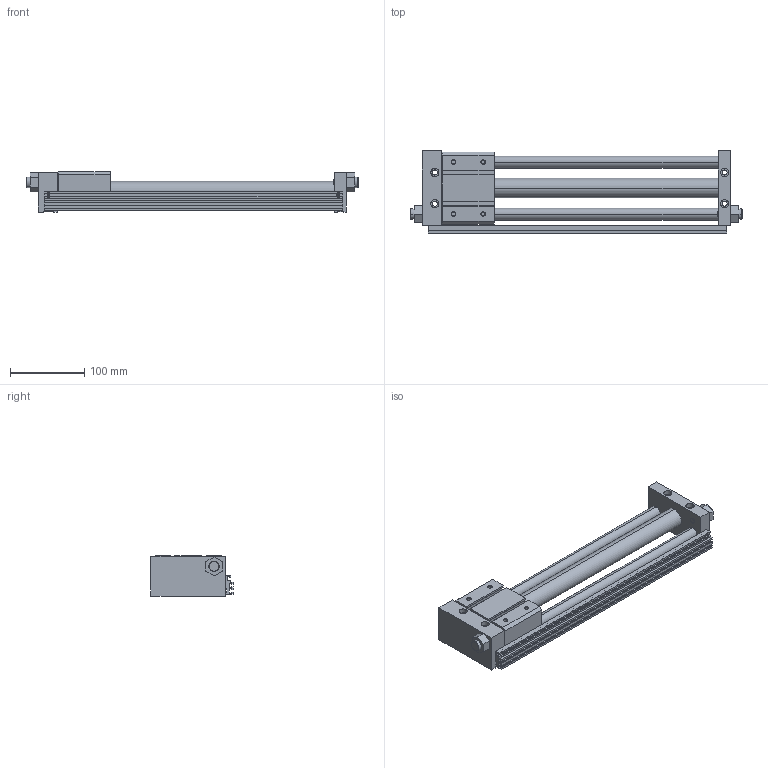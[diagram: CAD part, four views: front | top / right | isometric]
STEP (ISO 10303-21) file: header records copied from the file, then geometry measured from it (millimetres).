
FILE_DESCRIPTION((''),'2;1');
FILE_NAME('C:\Documents and Settings\Administrator\桌面\GYS\GYS25\GYSR25X300.stp','2012-03-06T11:00:29',('Administrator'),(''),'Autodesk Inventor 8','Autodesk Inventor 8','');
FILE_SCHEMA(('AUTOMOTIVE_DESIGN { 1 0 10303 214 1 1 1 1 }'));
Length unit declared in the file: millimetre
Products named in the file (3): GYSR25X300; GYS25X300; GYS25160X300
Assembly tree (2 placements, depth 2):
  GYSR25X300
    GYS25X300
    GYS25160X300
Bounding box: 447 x 110.5 x 54 mm (x, y, z)
Volume: 890309.4 mm3; surface area: 176553.8 mm2
Topology: 2 solids, 2 shells, 276 faces, 718 edges, 468 vertices
Faces by surface type: plane 154, cylinder 80, cone 32, bspline 10
Entity records: 8662 total; most frequent: CARTESIAN_POINT 1609, DIRECTION 1476, ORIENTED_EDGE 1436, EDGE_CURVE 718, VECTOR 502, LINE 502, AXIS2_PLACEMENT_3D 487, VERTEX_POINT 468
